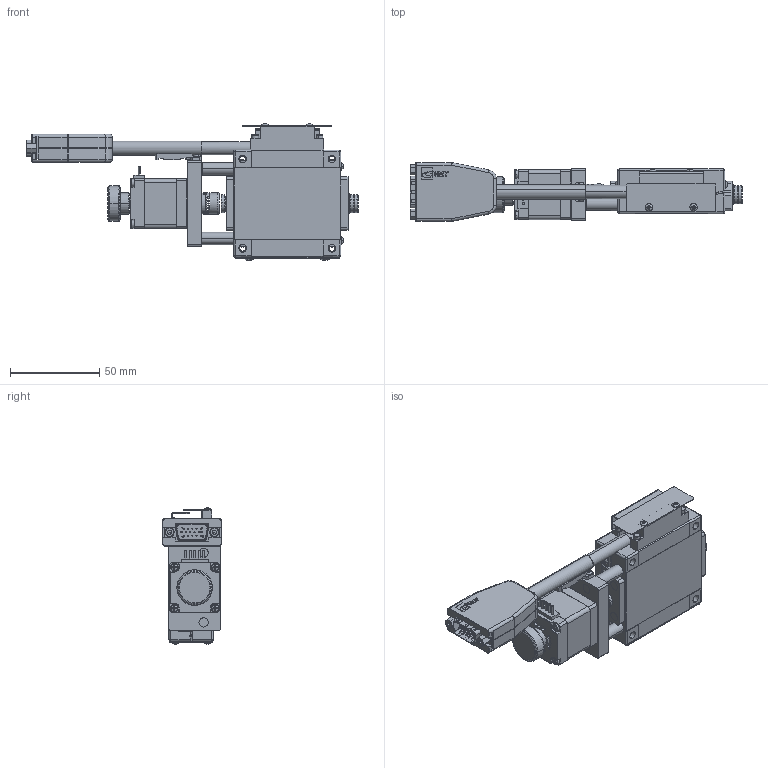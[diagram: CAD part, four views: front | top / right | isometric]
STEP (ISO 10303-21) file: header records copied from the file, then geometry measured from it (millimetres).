
FILE_DESCRIPTION (( 'STEP AP203' ), '1' );
FILE_NAME ('AXG6-75VM-3PR.STEP', '2014-02-26T03:51:24', ( '' ), ( '' ), 'SwSTEP 2.0', 'SolidWorks 2013', '' );
FILE_SCHEMA (( 'CONFIG_CONTROL_DESIGN' ));
Length unit declared in the file: millimetre
Products named in the file (3): Group1^AXG6-75VM-3PR(模糊化); Group2^AXG6-75VM-3PR(模糊化); AXG6-75VM-3PR
Assembly tree (2 placements, depth 2):
  AXG6-75VM-3PR
    Group1^AXG6-75VM-3PR(模糊化)
    Group2^AXG6-75VM-3PR(模糊化)
Bounding box: 185.96 x 33 x 76.27 mm (x, y, z)
Volume: 40462.2 mm3; surface area: 54369.1 mm2
Topology: 1 solids, 9 shells, 2208 faces, 5831 edges, 3686 vertices
Faces by surface type: plane 1212, cylinder 599, cone 225, bspline 74, sphere 52, torus 46
Entity records: 73574 total; most frequent: CARTESIAN_POINT 18955, DIRECTION 11416, ORIENTED_EDGE 11382, EDGE_CURVE 5799, AXIS2_PLACEMENT_3D 4174, VERTEX_POINT 3686, VECTOR 3068, LINE 3068
